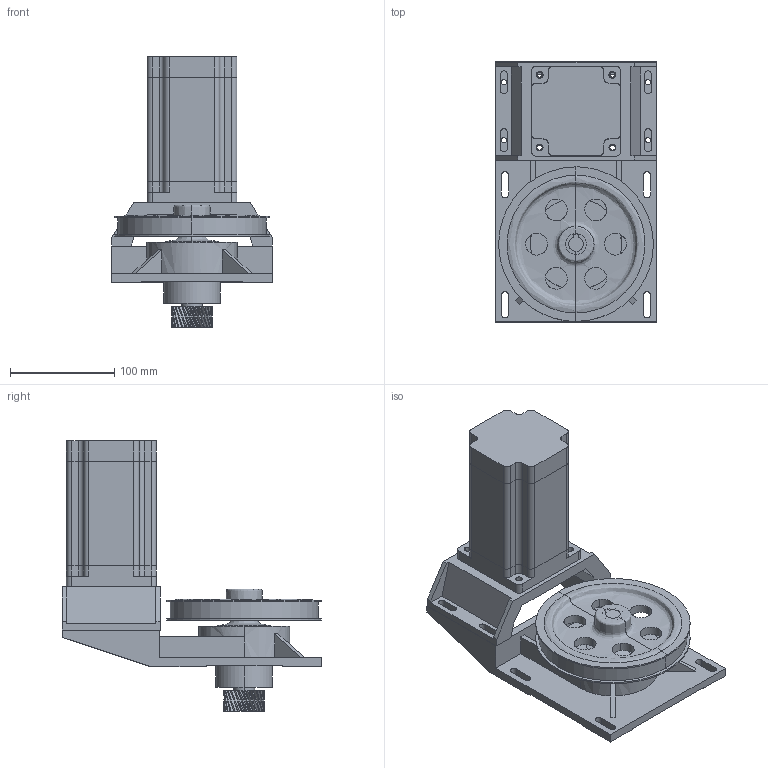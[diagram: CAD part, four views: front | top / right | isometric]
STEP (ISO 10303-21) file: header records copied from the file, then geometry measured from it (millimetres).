
FILE_DESCRIPTION(/* description */ (''),/* implementation_level */ '2;1');
FILE_NAME(/* name */ 'PINION~1',/* time_stamp */ '2020-08-21T22:38:25+03:00',/* author */ (''),/* organization */ (''),/* preprocessor_version */ 'ST-DEVELOPER v15',/* originating_system */ '',/* authorisation */ '');
FILE_SCHEMA (('CONFIG_CONTROL_DESIGN'));
Length unit declared in the file: millimetre
Products named in the file (1): Document
Bounding box: 155 x 249 x 259.5 mm (x, y, z)
Volume: 1797523.1 mm3; surface area: 292114.7 mm2
Topology: 8 solids, 8 shells, 420 faces, 1192 edges, 787 vertices
Faces by surface type: bspline 296, plane 124
Entity records: 14390 total; most frequent: CARTESIAN_POINT 7738, ORIENTED_EDGE 2384, EDGE_CURVE 1192, VERTEX_POINT 787, EDGE_LOOP 485, ADVANCED_FACE 420, FACE_OUTER_BOUND 420, B_SPLINE_CURVE_WITH_KNOTS 417
